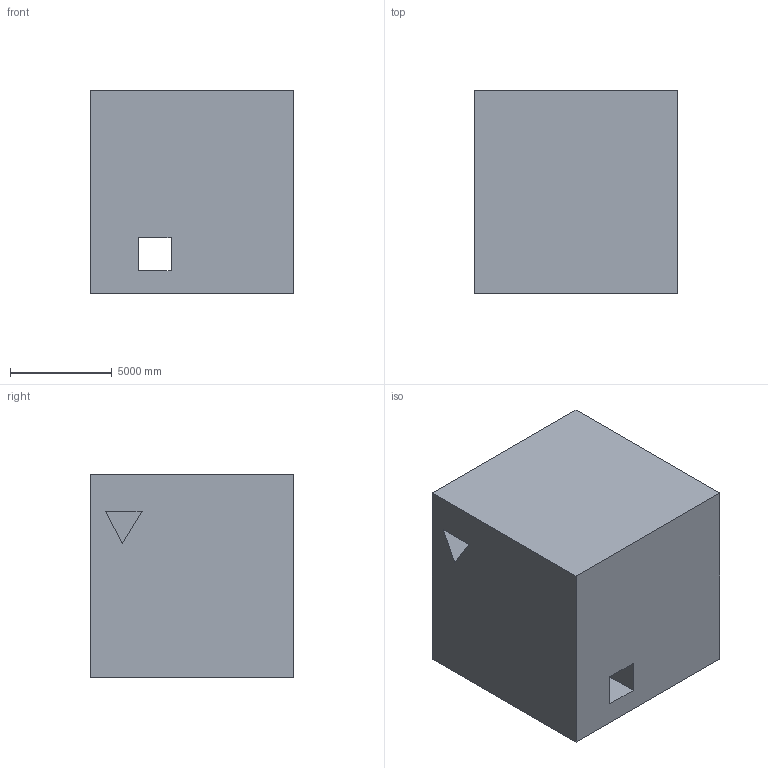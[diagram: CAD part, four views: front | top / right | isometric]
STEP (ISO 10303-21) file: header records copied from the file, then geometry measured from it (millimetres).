
FILE_DESCRIPTION (( 'STEP AP203' ), '1' );
FILE_NAME ('123.STEP', '2022-07-28T13:40:25', ( 'user' ), ( '' ), 'SwSTEP 2.0', 'SolidWorks 2021', '' );
FILE_SCHEMA (( 'CONFIG_CONTROL_DESIGN' ));
Length unit declared in the file: centimetre
Products named in the file (1): 123
Bounding box: 10000 x 10000 x 10000 mm (x, y, z)
Volume: 969838985914 mm3; surface area: 674185166.4 mm2
Topology: 1 solids, 1 shells, 14 faces, 33 edges, 22 vertices
Faces by surface type: plane 14
Entity records: 478 total; most frequent: CARTESIAN_POINT 70, ORIENTED_EDGE 66, DIRECTION 63, LINE 33, VECTOR 33, EDGE_CURVE 33, VERTEX_POINT 22, EDGE_LOOP 17
